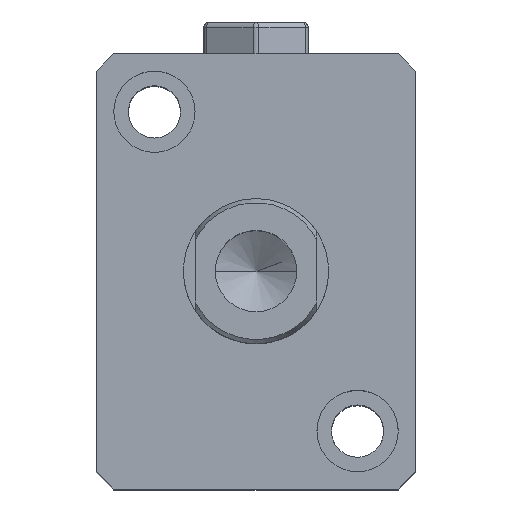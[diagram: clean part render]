
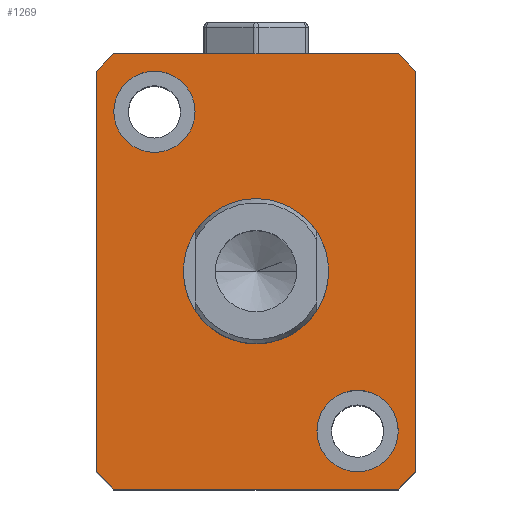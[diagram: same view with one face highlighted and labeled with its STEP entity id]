
A CAD part, top view. The second image highlights one B-rep face of the part: STEP entity #1269.
In plain terms, the highlighted planar face has unit normal (0, 0, 1).
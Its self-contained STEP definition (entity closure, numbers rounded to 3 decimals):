
#7 = VERTEX_POINT ( 'NONE', #787 ) ;
#20 = EDGE_CURVE ( 'NONE', #2523, #1507, #410, .T. ) ;
#25 = DIRECTION ( 'NONE',  ( 0., 0., -1. ) ) ;
#70 = DIRECTION ( 'NONE',  ( 0., 0., 1. ) ) ;
#77 = VERTEX_POINT ( 'NONE', #2617 ) ;
#78 = LINE ( 'NONE', #1343, #1431 ) ;
#132 = CARTESIAN_POINT ( 'NONE',  ( -27.5, 34.5, 95. ) ) ;
#169 = EDGE_CURVE ( 'NONE', #670, #1933, #372, .T. ) ;
#203 = VECTOR ( 'NONE', #1912, 1000. ) ;
#218 = VERTEX_POINT ( 'NONE', #248 ) ;
#235 = EDGE_LOOP ( 'NONE', ( #450, #430 ) ) ;
#248 = CARTESIAN_POINT ( 'NONE',  ( 24.5, 37.5, 95. ) ) ;
#282 = LINE ( 'NONE', #2092, #688 ) ;
#308 = DIRECTION ( 'NONE',  ( 1., 0., 0. ) ) ;
#314 = DIRECTION ( 'NONE',  ( 0., 0., 1. ) ) ;
#320 = CARTESIAN_POINT ( 'NONE',  ( 17.5, -27.5, 95. ) ) ;
#355 = ORIENTED_EDGE ( 'NONE', *, *, #537, .T. ) ;
#372 = CIRCLE ( 'NONE', #2502, 7. ) ;
#374 = ORIENTED_EDGE ( 'NONE', *, *, #2253, .T. ) ;
#378 = ORIENTED_EDGE ( 'NONE', *, *, #1505, .T. ) ;
#380 = ORIENTED_EDGE ( 'NONE', *, *, #20, .T. ) ;
#388 = ORIENTED_EDGE ( 'NONE', *, *, #2614, .T. ) ;
#409 = ORIENTED_EDGE ( 'NONE', *, *, #2106, .T. ) ;
#410 = LINE ( 'NONE', #1586, #415 ) ;
#413 = ORIENTED_EDGE ( 'NONE', *, *, #2906, .T. ) ;
#415 = VECTOR ( 'NONE', #1539, 1000. ) ;
#416 = VECTOR ( 'NONE', #1124, 1000. ) ;
#424 = ORIENTED_EDGE ( 'NONE', *, *, #869, .T. ) ;
#425 = DIRECTION ( 'NONE',  ( 1., 0., 0. ) ) ;
#430 = ORIENTED_EDGE ( 'NONE', *, *, #1671, .F. ) ;
#450 = ORIENTED_EDGE ( 'NONE', *, *, #1630, .F. ) ;
#461 = ORIENTED_EDGE ( 'NONE', *, *, #613, .F. ) ;
#475 = CARTESIAN_POINT ( 'NONE',  ( -27.5, 34.5, 95. ) ) ;
#485 = ORIENTED_EDGE ( 'NONE', *, *, #2165, .F. ) ;
#490 = AXIS2_PLACEMENT_3D ( 'NONE', #516, #1001, #425 ) ;
#494 = LINE ( 'NONE', #2312, #416 ) ;
#495 = ORIENTED_EDGE ( 'NONE', *, *, #169, .F. ) ;
#501 = ORIENTED_EDGE ( 'NONE', *, *, #2760, .F. ) ;
#515 = VERTEX_POINT ( 'NONE', #1380 ) ;
#516 = CARTESIAN_POINT ( 'NONE',  ( -17.5, 27.5, 95. ) ) ;
#518 = CARTESIAN_POINT ( 'NONE',  ( -24.5, 37.5, 95. ) ) ;
#537 = EDGE_CURVE ( 'NONE', #77, #218, #78, .T. ) ;
#545 = DIRECTION ( 'NONE',  ( 0., 0., 1. ) ) ;
#613 = EDGE_CURVE ( 'NONE', #1371, #2592, #1388, .T. ) ;
#617 = CARTESIAN_POINT ( 'NONE',  ( -27.5, 34.5, 95. ) ) ;
#668 = AXIS2_PLACEMENT_3D ( 'NONE', #778, #545, #789 ) ;
#670 = VERTEX_POINT ( 'NONE', #2824 ) ;
#688 = VECTOR ( 'NONE', #1181, 1000. ) ;
#730 = VECTOR ( 'NONE', #2246, 1000. ) ;
#778 = CARTESIAN_POINT ( 'NONE',  ( 0., 0., 95. ) ) ;
#784 = DIRECTION ( 'NONE',  ( 0., -1., 0. ) ) ;
#787 = CARTESIAN_POINT ( 'NONE',  ( -27.5, -34.5, 95. ) ) ;
#789 = DIRECTION ( 'NONE',  ( -1., 0., 0. ) ) ;
#837 = LINE ( 'NONE', #2678, #1327 ) ;
#847 = LINE ( 'NONE', #972, #203 ) ;
#869 = EDGE_CURVE ( 'NONE', #218, #927, #837, .T. ) ;
#888 = EDGE_LOOP ( 'NONE', ( #485, #461 ) ) ;
#927 = VERTEX_POINT ( 'NONE', #518 ) ;
#972 = CARTESIAN_POINT ( 'NONE',  ( -27.5, -34.5, 95. ) ) ;
#1001 = DIRECTION ( 'NONE',  ( 0., 0., 1. ) ) ;
#1041 = FACE_OUTER_BOUND ( 'NONE', #1384, .T. ) ;
#1045 = FACE_BOUND ( 'NONE', #235, .T. ) ;
#1049 = FACE_BOUND ( 'NONE', #888, .T. ) ;
#1124 = DIRECTION ( 'NONE',  ( 0.707, 0.707, 0. ) ) ;
#1152 = CARTESIAN_POINT ( 'NONE',  ( -24.5, 27.5, 95. ) ) ;
#1181 = DIRECTION ( 'NONE',  ( 0., 1., 0. ) ) ;
#1269 = ADVANCED_FACE ( 'NONE', ( #2034, #1049, #1045, #1041 ), #1525, .F. ) ;
#1306 = DIRECTION ( 'NONE',  ( -0.707, 0.707, 0. ) ) ;
#1327 = VECTOR ( 'NONE', #2719, 1000. ) ;
#1334 = CIRCLE ( 'NONE', #490, 7. ) ;
#1343 = CARTESIAN_POINT ( 'NONE',  ( 24.5, 37.5, 95. ) ) ;
#1371 = VERTEX_POINT ( 'NONE', #1152 ) ;
#1380 = CARTESIAN_POINT ( 'NONE',  ( -12.5, 0., 95. ) ) ;
#1384 = EDGE_LOOP ( 'NONE', ( #424, #413, #409, #388, #380, #378, #374, #355 ) ) ;
#1388 = CIRCLE ( 'NONE', #1926, 7. ) ;
#1431 = VECTOR ( 'NONE', #1306, 1000. ) ;
#1456 = CARTESIAN_POINT ( 'NONE',  ( 0., 0., 95. ) ) ;
#1505 = EDGE_CURVE ( 'NONE', #1507, #1779, #494, .T. ) ;
#1507 = VERTEX_POINT ( 'NONE', #2714 ) ;
#1524 = CARTESIAN_POINT ( 'NONE',  ( 17.5, -27.5, 95. ) ) ;
#1525 = PLANE ( 'NONE',  #1608 ) ;
#1538 = DIRECTION ( 'NONE',  ( -1., 0., 0. ) ) ;
#1539 = DIRECTION ( 'NONE',  ( 1., 0., 0. ) ) ;
#1570 = VECTOR ( 'NONE', #784, 1000. ) ;
#1586 = CARTESIAN_POINT ( 'NONE',  ( -24.5, -37.5, 95. ) ) ;
#1608 = AXIS2_PLACEMENT_3D ( 'NONE', #1456, #25, #1538 ) ;
#1630 = EDGE_CURVE ( 'NONE', #515, #1887, #2918, .T. ) ;
#1657 = CARTESIAN_POINT ( 'NONE',  ( 27.5, -34.5, 95. ) ) ;
#1671 = EDGE_CURVE ( 'NONE', #1887, #515, #2632, .T. ) ;
#1751 = DIRECTION ( 'NONE',  ( 1., 0., 0. ) ) ;
#1779 = VERTEX_POINT ( 'NONE', #1657 ) ;
#1814 = CIRCLE ( 'NONE', #2555, 7. ) ;
#1887 = VERTEX_POINT ( 'NONE', #2378 ) ;
#1912 = DIRECTION ( 'NONE',  ( 0.707, -0.707, 0. ) ) ;
#1926 = AXIS2_PLACEMENT_3D ( 'NONE', #2634, #2642, #2322 ) ;
#1933 = VERTEX_POINT ( 'NONE', #2590 ) ;
#2004 = EDGE_LOOP ( 'NONE', ( #501, #495 ) ) ;
#2019 = CARTESIAN_POINT ( 'NONE',  ( 0., 0., 95. ) ) ;
#2034 = FACE_BOUND ( 'NONE', #2004, .T. ) ;
#2092 = CARTESIAN_POINT ( 'NONE',  ( 27.5, 34.5, 95. ) ) ;
#2103 = CARTESIAN_POINT ( 'NONE',  ( -24.5, -37.5, 95. ) ) ;
#2106 = EDGE_CURVE ( 'NONE', #2583, #7, #2784, .T. ) ;
#2132 = CARTESIAN_POINT ( 'NONE',  ( -10.5, 27.5, 95. ) ) ;
#2165 = EDGE_CURVE ( 'NONE', #2592, #1371, #1334, .T. ) ;
#2216 = DIRECTION ( 'NONE',  ( 0., 0., 1. ) ) ;
#2226 = DIRECTION ( 'NONE',  ( -1., 0., 0. ) ) ;
#2246 = DIRECTION ( 'NONE',  ( -0.707, -0.707, 0. ) ) ;
#2253 = EDGE_CURVE ( 'NONE', #1779, #77, #282, .T. ) ;
#2312 = CARTESIAN_POINT ( 'NONE',  ( 27.5, -34.5, 95. ) ) ;
#2322 = DIRECTION ( 'NONE',  ( 1., 0., 0. ) ) ;
#2378 = CARTESIAN_POINT ( 'NONE',  ( 12.5, 0., 95. ) ) ;
#2502 = AXIS2_PLACEMENT_3D ( 'NONE', #320, #314, #308 ) ;
#2523 = VERTEX_POINT ( 'NONE', #2103 ) ;
#2555 = AXIS2_PLACEMENT_3D ( 'NONE', #1524, #70, #1751 ) ;
#2571 = LINE ( 'NONE', #617, #730 ) ;
#2583 = VERTEX_POINT ( 'NONE', #475 ) ;
#2590 = CARTESIAN_POINT ( 'NONE',  ( 24.5, -27.5, 95. ) ) ;
#2592 = VERTEX_POINT ( 'NONE', #2132 ) ;
#2614 = EDGE_CURVE ( 'NONE', #7, #2523, #847, .T. ) ;
#2617 = CARTESIAN_POINT ( 'NONE',  ( 27.5, 34.5, 95. ) ) ;
#2632 = CIRCLE ( 'NONE', #668, 12.5 ) ;
#2634 = CARTESIAN_POINT ( 'NONE',  ( -17.5, 27.5, 95. ) ) ;
#2642 = DIRECTION ( 'NONE',  ( 0., 0., 1. ) ) ;
#2678 = CARTESIAN_POINT ( 'NONE',  ( -24.5, 37.5, 95. ) ) ;
#2714 = CARTESIAN_POINT ( 'NONE',  ( 24.5, -37.5, 95. ) ) ;
#2719 = DIRECTION ( 'NONE',  ( -1., 0., 0. ) ) ;
#2760 = EDGE_CURVE ( 'NONE', #1933, #670, #1814, .T. ) ;
#2784 = LINE ( 'NONE', #132, #1570 ) ;
#2824 = CARTESIAN_POINT ( 'NONE',  ( 10.5, -27.5, 95. ) ) ;
#2879 = AXIS2_PLACEMENT_3D ( 'NONE', #2019, #2216, #2226 ) ;
#2906 = EDGE_CURVE ( 'NONE', #927, #2583, #2571, .T. ) ;
#2918 = CIRCLE ( 'NONE', #2879, 12.5 ) ;
